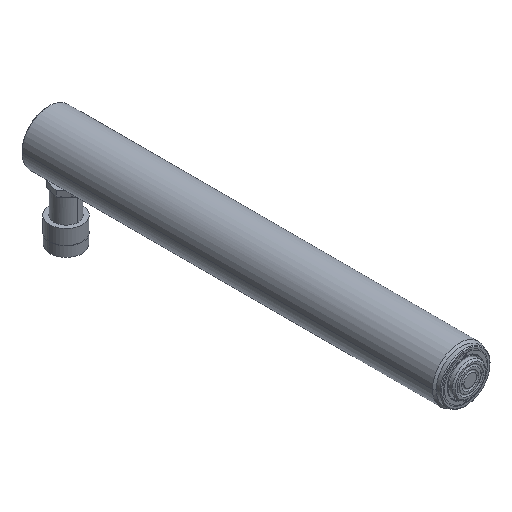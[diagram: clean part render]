
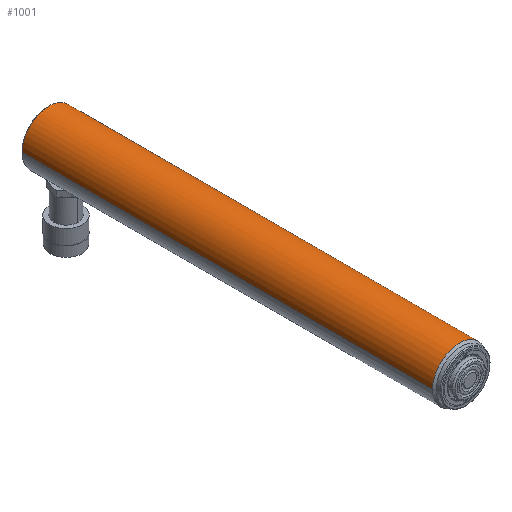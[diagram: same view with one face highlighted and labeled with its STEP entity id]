
A CAD part, isometric view. The second image highlights one B-rep face of the part: STEP entity #1001.
In plain terms, the highlighted cylindrical face has radius 28.575 mm (diameter 57.15 mm), a partial arc.
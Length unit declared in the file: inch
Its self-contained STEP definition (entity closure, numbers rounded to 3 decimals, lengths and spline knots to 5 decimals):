
#208=CARTESIAN_POINT('',(-1.125,17.47,
0.));
#209=CARTESIAN_POINT('',(-1.125,17.47,0.07044));
#210=CARTESIAN_POINT('',(-1.11177,17.46997,0.21294));
#211=CARTESIAN_POINT('',(-1.04975,17.47001,0.42436));
#212=CARTESIAN_POINT('',(-0.94611,17.46999,
0.62226));
#213=CARTESIAN_POINT('',(-0.80491,17.47,
0.79648));
#214=CARTESIAN_POINT('',(-0.63308,17.47,
0.93879));
#215=CARTESIAN_POINT('',(-0.43689,17.47,1.04466));
#216=CARTESIAN_POINT('',(-0.22312,17.47,1.11017));
#217=CARTESIAN_POINT('',(-0.00031,17.47,1.13238));
#218=CARTESIAN_POINT('',(0.22252,17.47,1.1103));
#219=CARTESIAN_POINT('',(0.43635,17.47,1.04489));
#220=CARTESIAN_POINT('',(0.6326,17.47,0.93911));
#221=CARTESIAN_POINT('',(0.80448,17.47001,0.79691));
#222=CARTESIAN_POINT('',(0.94576,17.46999,0.62279));
#223=CARTESIAN_POINT('',(1.04956,17.47001,0.42486));
#224=CARTESIAN_POINT('',(1.11173,17.46996,0.21324));
#225=CARTESIAN_POINT('',(1.125,17.47,0.07055));
#226=CARTESIAN_POINT('',(1.125,17.47,0.));
#228=DIRECTION('',(0.,1.,0.));
#229=VECTOR('',#228,17.2);
#230=CARTESIAN_POINT('',(-1.125,0.27,0.));
#231=LINE('',#230,#229);
#286=DIRECTION('',(0.,1.,0.));
#287=VECTOR('',#286,17.2);
#288=CARTESIAN_POINT('',(1.125,0.27,0.));
#289=LINE('',#288,#287);
#356=CARTESIAN_POINT('',(0.,0.27,0.));
#357=DIRECTION('',(0.,1.,0.));
#358=DIRECTION('',(-1.,0.,0.));
#359=AXIS2_PLACEMENT_3D('',#356,#357,#358);
#830=CARTESIAN_POINT('',(-1.125,0.27,0.));
#831=CARTESIAN_POINT('',(1.125,0.27,0.));
#832=VERTEX_POINT('',#830);
#833=VERTEX_POINT('',#831);
#928=VERTEX_POINT('',#208);
#929=VERTEX_POINT('',#226);
#986=CARTESIAN_POINT('',(0.,0.,0.));
#987=DIRECTION('',(0.,1.,0.));
#988=DIRECTION('',(-1.,0.,0.));
#989=AXIS2_PLACEMENT_3D('',#986,#987,#988);
#990=CYLINDRICAL_SURFACE('',#989,1.125);
#992=ORIENTED_EDGE('',*,*,#991,.T.);
#994=ORIENTED_EDGE('',*,*,#993,.F.);
#996=ORIENTED_EDGE('',*,*,#995,.F.);
#998=ORIENTED_EDGE('',*,*,#997,.T.);
#999=EDGE_LOOP('',(#992,#994,#996,#998));
#1000=FACE_OUTER_BOUND('',#999,.F.);
#1001=ADVANCED_FACE('',(#1000),#990,.T.);
#227=B_SPLINE_CURVE_WITH_KNOTS('',3,(#208,#209,#210,#211,#212,#213,#214,#215,
#216,#217,#218,#219,#220,#221,#222,#223,#224,#225,#226),.UNSPECIFIED.,.F.,.F.,
(4,1,1,1,1,1,1,1,1,1,1,1,1,1,1,1,4),(0.,0.0625,0.125,0.1875,0.25,
0.3125,0.375,0.4375,0.5,0.5625,0.625,0.6875,0.75,0.8125,
0.875,0.9375,1.),.UNSPECIFIED.);
#360=CIRCLE('',#359,1.125);
#991=EDGE_CURVE('',#928,#929,#227,.T.);
#993=EDGE_CURVE('',#833,#929,#289,.T.);
#995=EDGE_CURVE('',#832,#833,#360,.T.);
#997=EDGE_CURVE('',#832,#928,#231,.T.);
